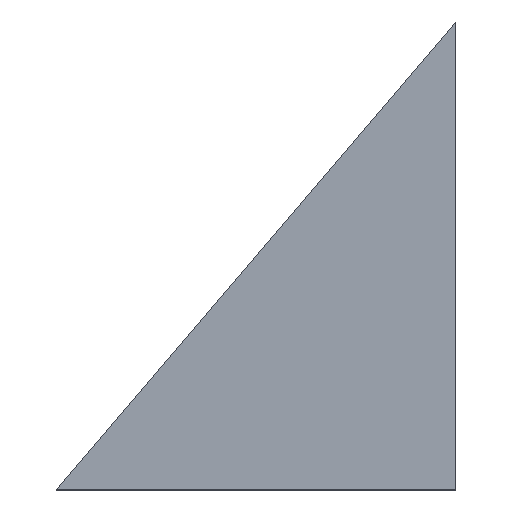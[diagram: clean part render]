
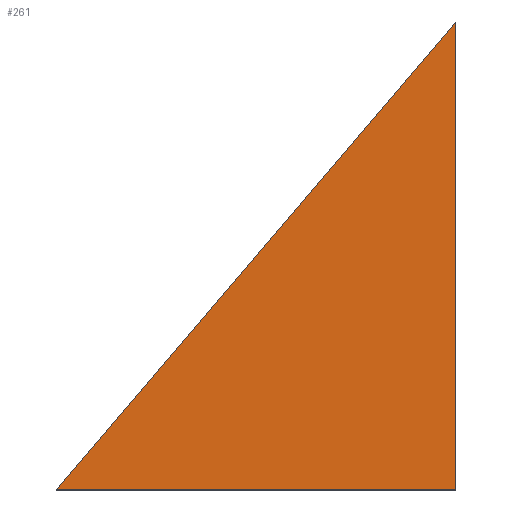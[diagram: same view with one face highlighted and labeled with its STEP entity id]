
A CAD part, top view. The second image highlights one B-rep face of the part: STEP entity #261.
In plain terms, the highlighted planar face has unit normal (0, 0, 1).
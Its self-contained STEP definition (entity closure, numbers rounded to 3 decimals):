
#24 = VERTEX_POINT('',#25);
#25 = CARTESIAN_POINT('',(-31.,0.,16.));
#32 = PLANE('',#33);
#33 = AXIS2_PLACEMENT_3D('',#34,#35,#36);
#34 = CARTESIAN_POINT('',(-31.,0.,0.));
#35 = DIRECTION('',(-0.,1.,-0.));
#36 = DIRECTION('',(1.,0.,0.));
#44 = PLANE('',#45);
#45 = AXIS2_PLACEMENT_3D('',#46,#47,#48);
#46 = CARTESIAN_POINT('',(-31.,204.,0.));
#47 = DIRECTION('',(-1.,-0.,-0.));
#48 = DIRECTION('',(0.,1.,0.));
#56 = EDGE_CURVE('',#24,#57,#59,.T.);
#57 = VERTEX_POINT('',#58);
#58 = CARTESIAN_POINT('',(-205.,0.,16.));
#59 = SURFACE_CURVE('',#60,(#64,#71),.PCURVE_S1.);
#60 = LINE('',#61,#62);
#61 = CARTESIAN_POINT('',(-31.,0.,16.));
#62 = VECTOR('',#63,1.);
#63 = DIRECTION('',(-1.,-0.,-0.));
#64 = PCURVE('',#32,#65);
#65 = DEFINITIONAL_REPRESENTATION('',(#66),#70);
#66 = LINE('',#67,#68);
#67 = CARTESIAN_POINT('',(-0.,-16.));
#68 = VECTOR('',#69,1.);
#69 = DIRECTION('',(-1.,0.));
#70 = ( GEOMETRIC_REPRESENTATION_CONTEXT(2) 
PARAMETRIC_REPRESENTATION_CONTEXT() REPRESENTATION_CONTEXT('2D SPACE',''
  ) );
#71 = PCURVE('',#72,#77);
#72 = PLANE('',#73);
#73 = AXIS2_PLACEMENT_3D('',#74,#75,#76);
#74 = CARTESIAN_POINT('',(-90.532,74.532,16.));
#75 = DIRECTION('',(-0.,-0.,1.));
#76 = DIRECTION('',(1.,0.,0.));
#77 = DEFINITIONAL_REPRESENTATION('',(#78),#82);
#78 = LINE('',#79,#80);
#79 = CARTESIAN_POINT('',(59.532,-74.532));
#80 = VECTOR('',#81,1.);
#81 = DIRECTION('',(-1.,0.));
#82 = ( GEOMETRIC_REPRESENTATION_CONTEXT(2) 
PARAMETRIC_REPRESENTATION_CONTEXT() REPRESENTATION_CONTEXT('2D SPACE',''
  ) );
#100 = PLANE('',#101);
#101 = AXIS2_PLACEMENT_3D('',#102,#103,#104);
#102 = CARTESIAN_POINT('',(-205.,0.,0.));
#103 = DIRECTION('',(0.761,-0.649,0.));
#104 = DIRECTION('',(-0.649,-0.761,0.));
#142 = EDGE_CURVE('',#57,#143,#145,.T.);
#143 = VERTEX_POINT('',#144);
#144 = CARTESIAN_POINT('',(-31.,204.,16.));
#145 = SURFACE_CURVE('',#146,(#150,#157),.PCURVE_S1.);
#146 = LINE('',#147,#148);
#147 = CARTESIAN_POINT('',(-205.,0.,16.));
#148 = VECTOR('',#149,1.);
#149 = DIRECTION('',(0.649,0.761,-0.));
#150 = PCURVE('',#100,#151);
#151 = DEFINITIONAL_REPRESENTATION('',(#152),#156);
#152 = LINE('',#153,#154);
#153 = CARTESIAN_POINT('',(-0.,-16.));
#154 = VECTOR('',#155,1.);
#155 = DIRECTION('',(-1.,0.));
#156 = ( GEOMETRIC_REPRESENTATION_CONTEXT(2) 
PARAMETRIC_REPRESENTATION_CONTEXT() REPRESENTATION_CONTEXT('2D SPACE',''
  ) );
#157 = PCURVE('',#72,#158);
#158 = DEFINITIONAL_REPRESENTATION('',(#159),#163);
#159 = LINE('',#160,#161);
#160 = CARTESIAN_POINT('',(-114.468,-74.532));
#161 = VECTOR('',#162,1.);
#162 = DIRECTION('',(0.649,0.761));
#163 = ( GEOMETRIC_REPRESENTATION_CONTEXT(2) 
PARAMETRIC_REPRESENTATION_CONTEXT() REPRESENTATION_CONTEXT('2D SPACE',''
  ) );
#213 = EDGE_CURVE('',#143,#24,#214,.T.);
#214 = SURFACE_CURVE('',#215,(#219,#226),.PCURVE_S1.);
#215 = LINE('',#216,#217);
#216 = CARTESIAN_POINT('',(-31.,204.,16.));
#217 = VECTOR('',#218,1.);
#218 = DIRECTION('',(-0.,-1.,-0.));
#219 = PCURVE('',#44,#220);
#220 = DEFINITIONAL_REPRESENTATION('',(#221),#225);
#221 = LINE('',#222,#223);
#222 = CARTESIAN_POINT('',(-0.,-16.));
#223 = VECTOR('',#224,1.);
#224 = DIRECTION('',(-1.,0.));
#225 = ( GEOMETRIC_REPRESENTATION_CONTEXT(2) 
PARAMETRIC_REPRESENTATION_CONTEXT() REPRESENTATION_CONTEXT('2D SPACE',''
  ) );
#226 = PCURVE('',#72,#227);
#227 = DEFINITIONAL_REPRESENTATION('',(#228),#232);
#228 = LINE('',#229,#230);
#229 = CARTESIAN_POINT('',(59.532,129.468));
#230 = VECTOR('',#231,1.);
#231 = DIRECTION('',(-0.,-1.));
#232 = ( GEOMETRIC_REPRESENTATION_CONTEXT(2) 
PARAMETRIC_REPRESENTATION_CONTEXT() REPRESENTATION_CONTEXT('2D SPACE',''
  ) );
#261 = ADVANCED_FACE('',(#262),#72,.T.);
#262 = FACE_BOUND('',#263,.F.);
#263 = EDGE_LOOP('',(#264,#265,#266));
#264 = ORIENTED_EDGE('',*,*,#56,.T.);
#265 = ORIENTED_EDGE('',*,*,#142,.T.);
#266 = ORIENTED_EDGE('',*,*,#213,.T.);
